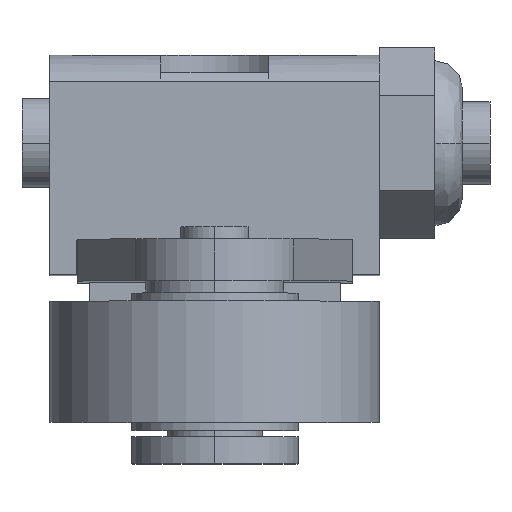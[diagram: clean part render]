
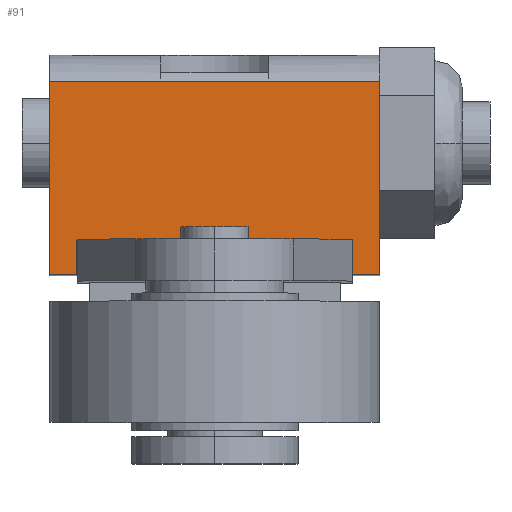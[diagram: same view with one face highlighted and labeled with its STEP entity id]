
A CAD part, top view. The second image highlights one B-rep face of the part: STEP entity #91.
In plain terms, the highlighted planar face has unit normal (0, 0, 1).
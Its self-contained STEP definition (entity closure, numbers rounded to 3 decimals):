
#91 = ADVANCED_FACE ( 'NONE', ( #716 ), #701, .T. ) ;
#92 = EDGE_LOOP ( 'NONE', ( #93, #858, #5833, #5834, #5835, #5836, #5837, #5808, #5810, #5799, #5800, #5801 ) ) ;
#93 = ORIENTED_EDGE ( 'NONE', *, *, #5655, .T. ) ;
#697 = DIRECTION ( 'NONE',  ( 1., 0., 0. ) ) ;
#698 = DIRECTION ( 'NONE',  ( 0., 0., 1. ) ) ;
#699 = CARTESIAN_POINT ( 'NONE',  ( 11.125, -1.524, 20.574 ) ) ;
#700 = AXIS2_PLACEMENT_3D ( 'NONE', #699, #698, #697 ) ;
#701 = PLANE ( 'NONE',  #700 ) ;
#716 = FACE_OUTER_BOUND ( 'NONE', #92, .T. ) ;
#858 = ORIENTED_EDGE ( 'NONE', *, *, #5739, .T. ) ;
#3273 = DIRECTION ( 'NONE',  ( 1., 0., 0. ) ) ;
#3274 = VECTOR ( 'NONE', #3273, 1000. ) ;
#3275 = CARTESIAN_POINT ( 'NONE',  ( 11.125, -12.7, 20.574 ) ) ;
#3276 = LINE ( 'NONE', #3275, #3274 ) ;
#3278 = CARTESIAN_POINT ( 'NONE',  ( 5.715, -12.7, 20.574 ) ) ;
#3448 = CARTESIAN_POINT ( 'NONE',  ( 5.715, -10.719, 20.574 ) ) ;
#3449 = DIRECTION ( 'NONE',  ( 0., 1., 0. ) ) ;
#3450 = VECTOR ( 'NONE', #3449, 1000. ) ;
#3451 = CARTESIAN_POINT ( 'NONE',  ( 5.715, -1.524, 20.574 ) ) ;
#3452 = LINE ( 'NONE', #3451, #3450 ) ;
#3457 = CARTESIAN_POINT ( 'NONE',  ( -2.515, -10.719, 20.574 ) ) ;
#3458 = DIRECTION ( 'NONE',  ( 0., -1., 0. ) ) ;
#3459 = VECTOR ( 'NONE', #3458, 1000. ) ;
#3460 = CARTESIAN_POINT ( 'NONE',  ( -2.515, -1.524, 20.574 ) ) ;
#3461 = LINE ( 'NONE', #3460, #3459 ) ;
#3462 = CARTESIAN_POINT ( 'NONE',  ( -2.515, -12.7, 20.574 ) ) ;
#3532 = CARTESIAN_POINT ( 'NONE',  ( -6.35, -10.719, 20.574 ) ) ;
#3533 = CARTESIAN_POINT ( 'NONE',  ( -6.35, -12.7, 20.574 ) ) ;
#3534 = DIRECTION ( 'NONE',  ( 0., 1., 0. ) ) ;
#3535 = VECTOR ( 'NONE', #3534, 1000. ) ;
#3536 = CARTESIAN_POINT ( 'NONE',  ( -6.35, -1.524, 20.574 ) ) ;
#3537 = LINE ( 'NONE', #3536, #3535 ) ;
#3654 = DIRECTION ( 'NONE',  ( 1., 0., 0. ) ) ;
#3655 = VECTOR ( 'NONE', #3654, 1000. ) ;
#3656 = CARTESIAN_POINT ( 'NONE',  ( 11.125, -10.719, 20.574 ) ) ;
#3657 = LINE ( 'NONE', #3656, #3655 ) ;
#3691 = DIRECTION ( 'NONE',  ( 0., 1., 0. ) ) ;
#3692 = VECTOR ( 'NONE', #3691, 1000. ) ;
#3693 = CARTESIAN_POINT ( 'NONE',  ( 11.125, -1.524, 20.574 ) ) ;
#3698 = LINE ( 'NONE', #3693, #3692 ) ;
#3749 = CARTESIAN_POINT ( 'NONE',  ( 11.125, -1.524, 20.574 ) ) ;
#3794 = CARTESIAN_POINT ( 'NONE',  ( -7.925, -1.524, 20.574 ) ) ;
#3855 = CARTESIAN_POINT ( 'NONE',  ( 9.55, -10.719, 20.574 ) ) ;
#3856 = DIRECTION ( 'NONE',  ( 0., -1., 0. ) ) ;
#3857 = VECTOR ( 'NONE', #3856, 1000. ) ;
#3858 = CARTESIAN_POINT ( 'NONE',  ( 9.55, -1.524, 20.574 ) ) ;
#3859 = LINE ( 'NONE', #3858, #3857 ) ;
#3860 = DIRECTION ( 'NONE',  ( -1., 0., 0. ) ) ;
#3861 = VECTOR ( 'NONE', #3860, 1000. ) ;
#3862 = CARTESIAN_POINT ( 'NONE',  ( 11.125, -12.7, 20.574 ) ) ;
#3863 = LINE ( 'NONE', #3862, #3861 ) ;
#3907 = CARTESIAN_POINT ( 'NONE',  ( -7.925, -12.7, 20.574 ) ) ;
#3908 = DIRECTION ( 'NONE',  ( 0., -1., 0. ) ) ;
#3909 = VECTOR ( 'NONE', #3908, 1000. ) ;
#3910 = CARTESIAN_POINT ( 'NONE',  ( -7.925, -5.08, 20.574 ) ) ;
#3911 = LINE ( 'NONE', #3910, #3909 ) ;
#3912 = DIRECTION ( 'NONE',  ( 1., 0., 0. ) ) ;
#3913 = VECTOR ( 'NONE', #3912, 1000. ) ;
#3914 = CARTESIAN_POINT ( 'NONE',  ( 11.125, -10.719, 20.574 ) ) ;
#3915 = LINE ( 'NONE', #3914, #3913 ) ;
#3993 = DIRECTION ( 'NONE',  ( -1., 0., 0. ) ) ;
#3994 = VECTOR ( 'NONE', #3993, 1000. ) ;
#3995 = CARTESIAN_POINT ( 'NONE',  ( 11.125, -1.524, 20.574 ) ) ;
#3996 = LINE ( 'NONE', #3995, #3994 ) ;
#4702 = CARTESIAN_POINT ( 'NONE',  ( 9.55, -12.7, 20.574 ) ) ;
#4703 = DIRECTION ( 'NONE',  ( -1., 0., 0. ) ) ;
#4704 = VECTOR ( 'NONE', #4703, 1000. ) ;
#4705 = CARTESIAN_POINT ( 'NONE',  ( 11.125, -12.7, 20.574 ) ) ;
#4706 = LINE ( 'NONE', #4705, #4704 ) ;
#4708 = CARTESIAN_POINT ( 'NONE',  ( 11.125, -12.7, 20.574 ) ) ;
#5591 = VERTEX_POINT ( 'NONE', #3278 ) ;
#5593 = EDGE_CURVE ( 'NONE', #5647, #5591, #3276, .T. ) ;
#5647 = VERTEX_POINT ( 'NONE', #3462 ) ;
#5649 = EDGE_CURVE ( 'NONE', #5650, #5647, #3461, .T. ) ;
#5650 = VERTEX_POINT ( 'NONE', #3457 ) ;
#5655 = EDGE_CURVE ( 'NONE', #5591, #5656, #3452, .T. ) ;
#5656 = VERTEX_POINT ( 'NONE', #3448 ) ;
#5682 = EDGE_CURVE ( 'NONE', #5683, #5684, #3537, .T. ) ;
#5683 = VERTEX_POINT ( 'NONE', #3533 ) ;
#5684 = VERTEX_POINT ( 'NONE', #3532 ) ;
#5739 = EDGE_CURVE ( 'NONE', #5656, #5812, #3657, .T. ) ;
#5764 = EDGE_CURVE ( 'NONE', #6101, #5765, #3698, .T. ) ;
#5765 = VERTEX_POINT ( 'NONE', #3749 ) ;
#5790 = VERTEX_POINT ( 'NONE', #3794 ) ;
#5799 = ORIENTED_EDGE ( 'NONE', *, *, #5830, .T. ) ;
#5800 = ORIENTED_EDGE ( 'NONE', *, *, #5649, .T. ) ;
#5801 = ORIENTED_EDGE ( 'NONE', *, *, #5593, .T. ) ;
#5808 = ORIENTED_EDGE ( 'NONE', *, *, #5809, .F. ) ;
#5809 = EDGE_CURVE ( 'NONE', #5683, #5839, #3863, .T. ) ;
#5810 = ORIENTED_EDGE ( 'NONE', *, *, #5682, .T. ) ;
#5811 = EDGE_CURVE ( 'NONE', #5812, #6105, #3859, .T. ) ;
#5812 = VERTEX_POINT ( 'NONE', #3855 ) ;
#5830 = EDGE_CURVE ( 'NONE', #5684, #5650, #3915, .T. ) ;
#5833 = ORIENTED_EDGE ( 'NONE', *, *, #5811, .T. ) ;
#5834 = ORIENTED_EDGE ( 'NONE', *, *, #6104, .F. ) ;
#5835 = ORIENTED_EDGE ( 'NONE', *, *, #5764, .T. ) ;
#5836 = ORIENTED_EDGE ( 'NONE', *, *, #5870, .T. ) ;
#5837 = ORIENTED_EDGE ( 'NONE', *, *, #5838, .T. ) ;
#5838 = EDGE_CURVE ( 'NONE', #5790, #5839, #3911, .T. ) ;
#5839 = VERTEX_POINT ( 'NONE', #3907 ) ;
#5870 = EDGE_CURVE ( 'NONE', #5765, #5790, #3996, .T. ) ;
#6101 = VERTEX_POINT ( 'NONE', #4708 ) ;
#6104 = EDGE_CURVE ( 'NONE', #6101, #6105, #4706, .T. ) ;
#6105 = VERTEX_POINT ( 'NONE', #4702 ) ;
